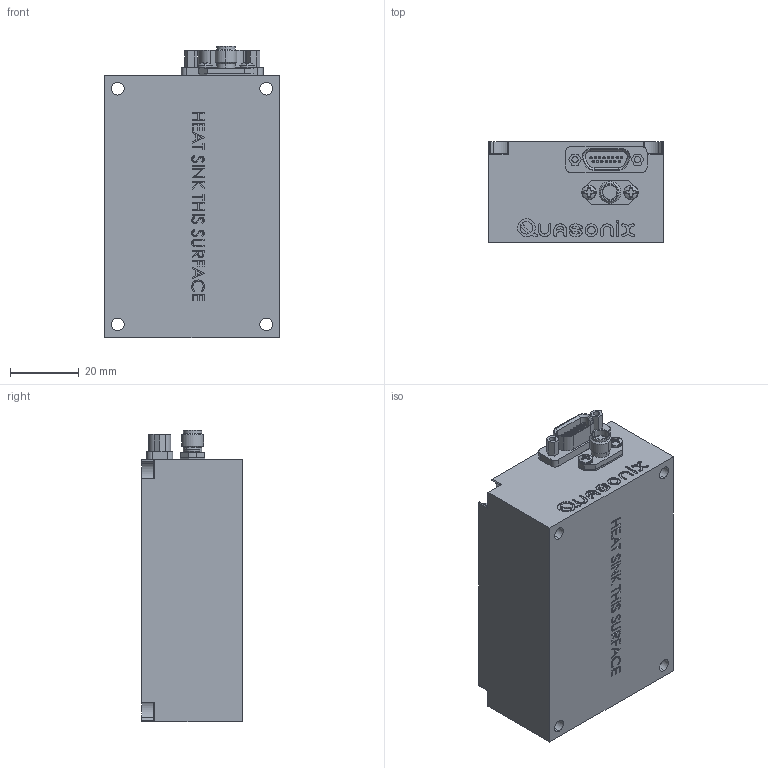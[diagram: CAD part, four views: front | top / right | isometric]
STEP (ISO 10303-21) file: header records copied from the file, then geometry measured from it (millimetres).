
FILE_DESCRIPTION (( 'STEP AP203' ), '1' );
FILE_NAME ('07AD.STEP', '2017-03-21T18:33:59', ( '' ), ( '' ), 'SwSTEP 2.0', 'SolidWorks 2016', '' );
FILE_SCHEMA (( 'CONFIG_CONTROL_DESIGN' ));
Length unit declared in the file: inch
Products named in the file (1): 07AD
Bounding box: 50.8 x 29.23 x 84.65 mm (x, y, z)
Volume: 112339.5 mm3; surface area: 18364.3 mm2
Topology: 8 solids, 8 shells, 706 faces, 1805 edges, 1194 vertices
Faces by surface type: plane 380, cylinder 152, bspline 141, cone 21, torus 8, sphere 4
Entity records: 26498 total; most frequent: CARTESIAN_POINT 10055, ORIENTED_EDGE 3610, DIRECTION 2929, EDGE_CURVE 1805, VERTEX_POINT 1194, LINE 1105, VECTOR 1105, AXIS2_PLACEMENT_3D 912
